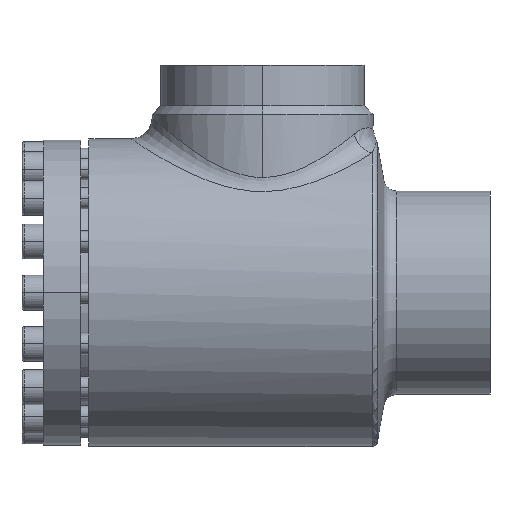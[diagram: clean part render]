
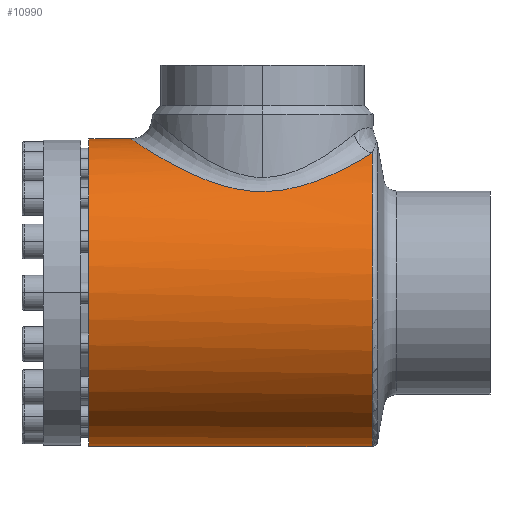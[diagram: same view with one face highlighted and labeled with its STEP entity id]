
A CAD part, left-side view. The second image highlights one B-rep face of the part: STEP entity #10990.
In plain terms, the highlighted cylindrical face has radius 57.5 mm (diameter 115 mm), a partial arc.
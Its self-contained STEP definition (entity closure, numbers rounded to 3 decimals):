
#3099 = EDGE_CURVE ( 'NONE', #3919, #8855, #7807, .T. ) ;
#3441 = ORIENTED_EDGE ( 'NONE', *, *, #3099, .T. ) ;
#3919 = VERTEX_POINT ( 'NONE', #8330 ) ;
#4129 = EDGE_CURVE ( 'NONE', #8203, #3919, #12639, .T. ) ;
#4467 = ORIENTED_EDGE ( 'NONE', *, *, #4129, .T. ) ;
#4955 = ORIENTED_EDGE ( 'NONE', *, *, #8769, .F. ) ;
#7779 = VERTEX_POINT ( 'NONE', #8029 ) ;
#7807 = B_SPLINE_CURVE_WITH_KNOTS ( 'NONE', 3,
 ( #7808, #7809, #7810, #7811, #7813, #7814, #7815, #7816, #7817, #7818, #7819, #7820, #7821, #7822, #7823, #7824, #7825, #7826, #7827, #7828, #7829, #7830, #7831, #7832, #7833, #7834, #7835, #7836, #7837, #7838, #7839, #7840, #7841, #7842, #7843, #7844, #7845, #7846, #7847, #7848, #7849, #7850, #7851, #7852, #7853, #7854, #7855, #7856, #7857, #7858, #7859, #7860, #7862, #7863, #7864, #7865, #7866, #7867, #7868, #7869, #7870, #7871 ),
 .UNSPECIFIED., .F., .F.,
 ( 4, 2, 2, 2, 2, 2, 2, 2, 2, 2, 2, 2, 2, 2, 2, 2, 2, 2, 2, 2, 2, 2, 2, 2, 2, 2, 2, 2, 2, 2, 4 ),
 ( 0., 0.008, 0.016, 0.017, 0.019, 0.023, 0.031, 0.035, 0.039, 0.047, 0.049, 0.05, 0.054, 0.058, 0.06, 0.062, 0.07, 0.074, 0.078, 0.085, 0.089, 0.091, 0.093, 0.101, 0.105, 0.107, 0.109, 0.116, 0.118, 0.12, 0.124 ),
 .UNSPECIFIED. ) ;
#7808 = CARTESIAN_POINT ( 'NONE',  ( -24.174, -105.892, 52.171 ) ) ;
#7809 = CARTESIAN_POINT ( 'NONE',  ( -26.132, -104.39, 51.264 ) ) ;
#7810 = CARTESIAN_POINT ( 'NONE',  ( -27.915, -102.76, 50.305 ) ) ;
#7811 = CARTESIAN_POINT ( 'NONE',  ( -31.195, -99.268, 48.34 ) ) ;
#7813 = CARTESIAN_POINT ( 'NONE',  ( -32.691, -97.405, 47.333 ) ) ;
#7814 = CARTESIAN_POINT ( 'NONE',  ( -34.397, -94.927, 46.079 ) ) ;
#7815 = CARTESIAN_POINT ( 'NONE',  ( -34.73, -94.424, 45.829 ) ) ;
#7816 = CARTESIAN_POINT ( 'NONE',  ( -35.379, -93.402, 45.329 ) ) ;
#7817 = CARTESIAN_POINT ( 'NONE',  ( -35.695, -92.884, 45.08 ) ) ;
#7818 = CARTESIAN_POINT ( 'NONE',  ( -36.613, -91.317, 44.344 ) ) ;
#7819 = CARTESIAN_POINT ( 'NONE',  ( -37.186, -90.253, 43.863 ) ) ;
#7820 = CARTESIAN_POINT ( 'NONE',  ( -38.793, -86.998, 42.466 ) ) ;
#7821 = CARTESIAN_POINT ( 'NONE',  ( -39.716, -84.747, 41.594 ) ) ;
#7822 = CARTESIAN_POINT ( 'NONE',  ( -40.882, -81.225, 40.437 ) ) ;
#7823 = CARTESIAN_POINT ( 'NONE',  ( -41.234, -80.027, 40.077 ) ) ;
#7824 = CARTESIAN_POINT ( 'NONE',  ( -41.862, -77.576, 39.421 ) ) ;
#7825 = CARTESIAN_POINT ( 'NONE',  ( -42.138, -76.319, 39.125 ) ) ;
#7826 = CARTESIAN_POINT ( 'NONE',  ( -42.831, -72.529, 38.37 ) ) ;
#7827 = CARTESIAN_POINT ( 'NONE',  ( -43.12, -69.961, 38.038 ) ) ;
#7828 = CARTESIAN_POINT ( 'NONE',  ( -43.257, -66.692, 37.883 ) ) ;
#7829 = CARTESIAN_POINT ( 'NONE',  ( -43.273, -66.034, 37.864 ) ) ;
#7830 = CARTESIAN_POINT ( 'NONE',  ( -43.282, -64.718, 37.854 ) ) ;
#7831 = CARTESIAN_POINT ( 'NONE',  ( -43.275, -64.063, 37.862 ) ) ;
#7832 = CARTESIAN_POINT ( 'NONE',  ( -43.219, -62.103, 37.926 ) ) ;
#7833 = CARTESIAN_POINT ( 'NONE',  ( -43.137, -60.806, 38.02 ) ) ;
#7834 = CARTESIAN_POINT ( 'NONE',  ( -42.884, -58.229, 38.305 ) ) ;
#7835 = CARTESIAN_POINT ( 'NONE',  ( -42.713, -56.95, 38.496 ) ) ;
#7836 = CARTESIAN_POINT ( 'NONE',  ( -42.391, -55.043, 38.85 ) ) ;
#7837 = CARTESIAN_POINT ( 'NONE',  ( -42.272, -54.408, 38.979 ) ) ;
#7838 = CARTESIAN_POINT ( 'NONE',  ( -42.014, -53.15, 39.257 ) ) ;
#7839 = CARTESIAN_POINT ( 'NONE',  ( -41.875, -52.528, 39.406 ) ) ;
#7840 = CARTESIAN_POINT ( 'NONE',  ( -41.13, -49.446, 40.191 ) ) ;
#7841 = CARTESIAN_POINT ( 'NONE',  ( -40.378, -47.077, 40.957 ) ) ;
#7842 = CARTESIAN_POINT ( 'NONE',  ( -39.022, -43.642, 42.237 ) ) ;
#7843 = CARTESIAN_POINT ( 'NONE',  ( -38.532, -42.517, 42.685 ) ) ;
#7844 = CARTESIAN_POINT ( 'NONE',  ( -37.473, -40.304, 43.618 ) ) ;
#7845 = CARTESIAN_POINT ( 'NONE',  ( -36.908, -39.223, 44.098 ) ) ;
#7846 = CARTESIAN_POINT ( 'NONE',  ( -35.115, -36.073, 45.559 ) ) ;
#7847 = CARTESIAN_POINT ( 'NONE',  ( -33.785, -34.085, 46.562 ) ) ;
#7848 = CARTESIAN_POINT ( 'NONE',  ( -31.574, -31.259, 48.064 ) ) ;
#7849 = CARTESIAN_POINT ( 'NONE',  ( -30.801, -30.343, 48.564 ) ) ;
#7850 = CARTESIAN_POINT ( 'NONE',  ( -29.582, -29.009, 49.309 ) ) ;
#7851 = CARTESIAN_POINT ( 'NONE',  ( -29.166, -28.57, 49.557 ) ) ;
#7852 = CARTESIAN_POINT ( 'NONE',  ( -28.313, -27.708, 50.049 ) ) ;
#7853 = CARTESIAN_POINT ( 'NONE',  ( -27.875, -27.282, 50.294 ) ) ;
#7854 = CARTESIAN_POINT ( 'NONE',  ( -25.646, -25.201, 51.504 ) ) ;
#7855 = CARTESIAN_POINT ( 'NONE',  ( -23.737, -23.688, 52.419 ) ) ;
#7856 = CARTESIAN_POINT ( 'NONE',  ( -20.66, -21.659, 53.671 ) ) ;
#7857 = CARTESIAN_POINT ( 'NONE',  ( -19.599, -21.023, 54.069 ) ) ;
#7858 = CARTESIAN_POINT ( 'NONE',  ( -17.948, -20.134, 54.63 ) ) ;
#7859 = CARTESIAN_POINT ( 'NONE',  ( -17.388, -19.848, 54.811 ) ) ;
#7860 = CARTESIAN_POINT ( 'NONE',  ( -16.247, -19.3, 55.16 ) ) ;
#7862 = CARTESIAN_POINT ( 'NONE',  ( -15.665, -19.037, 55.328 ) ) ;
#7863 = CARTESIAN_POINT ( 'NONE',  ( -12.734, -17.796, 56.125 ) ) ;
#7864 = CARTESIAN_POINT ( 'NONE',  ( -10.302, -17.028, 56.627 ) ) ;
#7865 = CARTESIAN_POINT ( 'NONE',  ( -7.142, -16.371, 57.058 ) ) ;
#7866 = CARTESIAN_POINT ( 'NONE',  ( -6.505, -16.254, 57.135 ) ) ;
#7867 = CARTESIAN_POINT ( 'NONE',  ( -5.216, -16.054, 57.267 ) ) ;
#7868 = CARTESIAN_POINT ( 'NONE',  ( -4.563, -15.969, 57.322 ) ) ;
#7869 = CARTESIAN_POINT ( 'NONE',  ( -2.602, -15.766, 57.456 ) ) ;
#7870 = CARTESIAN_POINT ( 'NONE',  ( -1.298, -15.7, 57.5 ) ) ;
#7871 = CARTESIAN_POINT ( 'NONE',  ( 0., -15.7, 57.5 ) ) ;
#7968 = CIRCLE ( 'NONE', #7969, 57.5 ) ;
#7969 = AXIS2_PLACEMENT_3D ( 'NONE', #7970, #7971, #7972 ) ;
#7970 = CARTESIAN_POINT ( 'NONE',  ( 0., 0., 0. ) ) ;
#7971 = DIRECTION ( 'NONE',  ( 0., 1., 0. ) ) ;
#7972 = DIRECTION ( 'NONE',  ( 0., 0., 1. ) ) ;
#8029 = CARTESIAN_POINT ( 'NONE',  ( 0., 0., 57.5 ) ) ;
#8203 = VERTEX_POINT ( 'NONE', #8262 ) ;
#8262 = CARTESIAN_POINT ( 'NONE',  ( 0., -105.892, -57.5 ) ) ;
#8330 = CARTESIAN_POINT ( 'NONE',  ( -24.174, -105.892, 52.171 ) ) ;
#8753 = VERTEX_POINT ( 'NONE', #11649 ) ;
#8769 = EDGE_CURVE ( 'NONE', #8203, #8753, #11803, .T. ) ;
#8855 = VERTEX_POINT ( 'NONE', #12963 ) ;
#8862 = EDGE_CURVE ( 'NONE', #8855, #7779, #13066, .T. ) ;
#8933 = EDGE_CURVE ( 'NONE', #8753, #7779, #7968, .T. ) ;
#8953 = ORIENTED_EDGE ( 'NONE', *, *, #8933, .F. ) ;
#9423 = ORIENTED_EDGE ( 'NONE', *, *, #8862, .T. ) ;
#10765 = EDGE_LOOP ( 'NONE', ( #4955, #4467, #3441, #9423, #8953 ) ) ;
#10990 = ADVANCED_FACE ( 'NONE', ( #11959 ), #11960, .T. ) ;
#11649 = CARTESIAN_POINT ( 'NONE',  ( 0., 0., -57.5 ) ) ;
#11803 = LINE ( 'NONE', #11804, #11805 ) ;
#11804 = CARTESIAN_POINT ( 'NONE',  ( 0., -111., -57.5 ) ) ;
#11805 = VECTOR ( 'NONE', #11806, 1000. ) ;
#11806 = DIRECTION ( 'NONE',  ( 0., 1., 0. ) ) ;
#11959 = FACE_OUTER_BOUND ( 'NONE', #10765, .T. ) ;
#11960 = CYLINDRICAL_SURFACE ( 'NONE', #11961, 57.5 ) ;
#11961 = AXIS2_PLACEMENT_3D ( 'NONE', #11962, #11963, #11966 ) ;
#11962 = CARTESIAN_POINT ( 'NONE',  ( 0., -111., 0. ) ) ;
#11963 = DIRECTION ( 'NONE',  ( 0., 1., 0. ) ) ;
#11966 = DIRECTION ( 'NONE',  ( 0., 0., 1. ) ) ;
#12639 = CIRCLE ( 'NONE', #12640, 57.5 ) ;
#12640 = AXIS2_PLACEMENT_3D ( 'NONE', #12641, #12642, #12645 ) ;
#12641 = CARTESIAN_POINT ( 'NONE',  ( 0., -105.892, 0. ) ) ;
#12642 = DIRECTION ( 'NONE',  ( 0., 1., 0. ) ) ;
#12645 = DIRECTION ( 'NONE',  ( 0., 0., -1. ) ) ;
#12963 = CARTESIAN_POINT ( 'NONE',  ( 0., -15.7, 57.5 ) ) ;
#13066 = LINE ( 'NONE', #13067, #13068 ) ;
#13067 = CARTESIAN_POINT ( 'NONE',  ( 0., -111., 57.5 ) ) ;
#13068 = VECTOR ( 'NONE', #13069, 1000. ) ;
#13069 = DIRECTION ( 'NONE',  ( 0., 1., 0. ) ) ;
